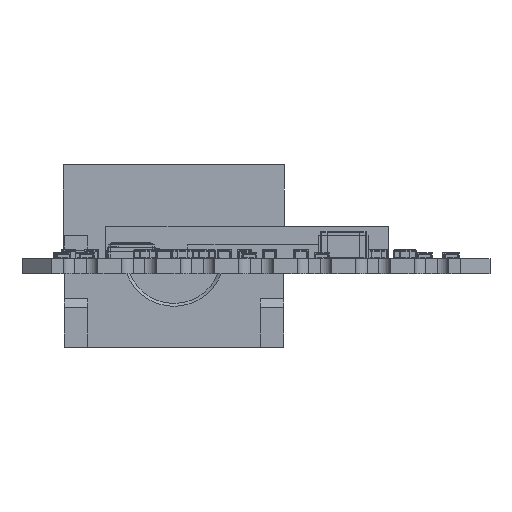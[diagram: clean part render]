
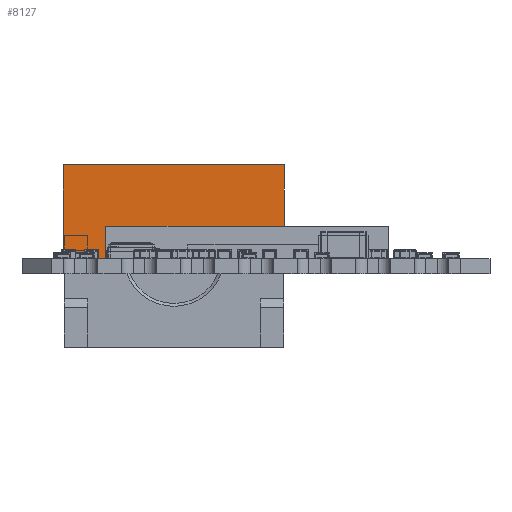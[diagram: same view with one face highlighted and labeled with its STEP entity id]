
A CAD part, front view. The second image highlights one B-rep face of the part: STEP entity #8127.
In plain terms, the highlighted planar face has unit normal (0, -1, 0).
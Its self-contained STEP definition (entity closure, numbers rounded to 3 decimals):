
#8127 = ADVANCED_FACE('',(#8128),#8162,.F.);
#8128 = FACE_BOUND('',#8129,.F.);
#8129 = EDGE_LOOP('',(#8130,#8140,#8148,#8156));
#8130 = ORIENTED_EDGE('',*,*,#8131,.T.);
#8131 = EDGE_CURVE('',#8132,#8134,#8136,.T.);
#8132 = VERTEX_POINT('',#8133);
#8133 = CARTESIAN_POINT('',(-4.8,-7.15,0.));
#8134 = VERTEX_POINT('',#8135);
#8135 = CARTESIAN_POINT('',(-4.8,-7.15,4.08));
#8136 = LINE('',#8137,#8138);
#8137 = CARTESIAN_POINT('',(-4.8,-7.15,0.));
#8138 = VECTOR('',#8139,1.);
#8139 = DIRECTION('',(0.,0.,1.));
#8140 = ORIENTED_EDGE('',*,*,#8141,.T.);
#8141 = EDGE_CURVE('',#8134,#8142,#8144,.T.);
#8142 = VERTEX_POINT('',#8143);
#8143 = CARTESIAN_POINT('',(4.8,-7.15,4.08));
#8144 = LINE('',#8145,#8146);
#8145 = CARTESIAN_POINT('',(-4.8,-7.15,4.08));
#8146 = VECTOR('',#8147,1.);
#8147 = DIRECTION('',(1.,0.,0.));
#8148 = ORIENTED_EDGE('',*,*,#8149,.F.);
#8149 = EDGE_CURVE('',#8150,#8142,#8152,.T.);
#8150 = VERTEX_POINT('',#8151);
#8151 = CARTESIAN_POINT('',(4.8,-7.15,0.));
#8152 = LINE('',#8153,#8154);
#8153 = CARTESIAN_POINT('',(4.8,-7.15,0.));
#8154 = VECTOR('',#8155,1.);
#8155 = DIRECTION('',(0.,0.,1.));
#8156 = ORIENTED_EDGE('',*,*,#8157,.F.);
#8157 = EDGE_CURVE('',#8132,#8150,#8158,.T.);
#8158 = LINE('',#8159,#8160);
#8159 = CARTESIAN_POINT('',(-4.8,-7.15,0.));
#8160 = VECTOR('',#8161,1.);
#8161 = DIRECTION('',(1.,0.,0.));
#8162 = PLANE('',#8163);
#8163 = AXIS2_PLACEMENT_3D('',#8164,#8165,#8166);
#8164 = CARTESIAN_POINT('',(-4.8,-7.15,0.));
#8165 = DIRECTION('',(0.,1.,0.));
#8166 = DIRECTION('',(1.,0.,0.));
